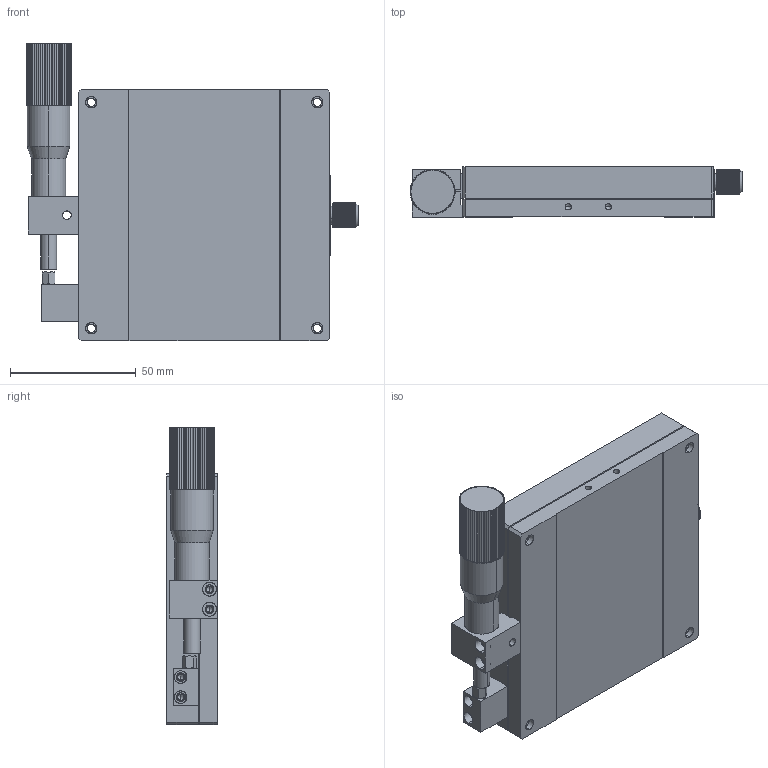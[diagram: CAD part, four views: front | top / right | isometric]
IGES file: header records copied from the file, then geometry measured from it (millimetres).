
Start section: SolidWorks IGES file using analytic representation for surfaces
Bounding box: 132.19 x 20 x 118.5 mm (x, y, z)
Surface area: 62263.2 mm2 (no closed solid volume)
Topology: 0 solids, 0 shells, 663 faces, 8296 edges, 8267 vertices
Faces by surface type: revolution 459, bspline 204
